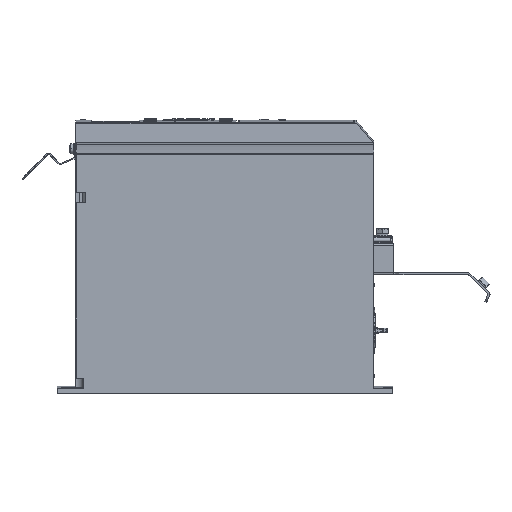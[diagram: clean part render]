
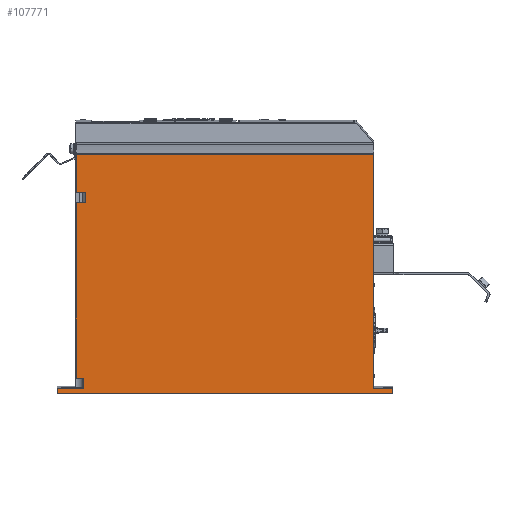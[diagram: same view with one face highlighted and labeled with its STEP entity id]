
A CAD part, left-side view. The second image highlights one B-rep face of the part: STEP entity #107771.
In plain terms, the highlighted planar face has unit normal (-1, 0, 0).
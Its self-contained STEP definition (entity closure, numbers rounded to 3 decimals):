
#5137=DIRECTION('',(0.,1.,0.));
#5138=VECTOR('',#5137,21.);
#5139=CARTESIAN_POINT('',(-84.8,113.,4.));
#5140=LINE('',#5139,#5138);
#5151=DIRECTION('',(0.,1.,0.));
#5152=VECTOR('',#5151,15.25);
#5153=CARTESIAN_POINT('',(-84.8,-134.,4.));
#5154=LINE('',#5153,#5152);
#29941=DIRECTION('',(0.,0.,1.));
#29942=VECTOR('',#29941,140.);
#29943=CARTESIAN_POINT('',(-84.8,118.75,12.));
#29944=LINE('',#29943,#29942);
#29948=DIRECTION('',(0.,1.,0.));
#29949=VECTOR('',#29948,7.75);
#29950=CARTESIAN_POINT('',(-84.8,111.,152.));
#29951=LINE('',#29950,#29949);
#29955=DIRECTION('',(0.,0.,-1.));
#29956=VECTOR('',#29955,8.);
#29957=CARTESIAN_POINT('',(-84.8,111.,160.));
#29958=LINE('',#29957,#29956);
#29962=DIRECTION('',(0.,1.,0.));
#29963=VECTOR('',#29962,7.75);
#29964=CARTESIAN_POINT('',(-84.8,111.,160.));
#29965=LINE('',#29964,#29963);
#29969=DIRECTION('',(0.,0.,1.));
#29970=VECTOR('',#29969,30.948);
#29971=CARTESIAN_POINT('',(-84.8,118.75,160.));
#29972=LINE('',#29971,#29970);
#29976=DIRECTION('',(0.,-1.,0.));
#29977=VECTOR('',#29976,237.5);
#29978=CARTESIAN_POINT('',(-84.8,118.75,190.948));
#29979=LINE('',#29978,#29977);
#29983=DIRECTION('',(0.,0.,-1.));
#29984=VECTOR('',#29983,186.948);
#29985=CARTESIAN_POINT('',(-84.8,-118.75,190.948));
#29986=LINE('',#29985,#29984);
#29990=DIRECTION('',(0.,1.,0.));
#29991=VECTOR('',#29990,268.);
#29992=CARTESIAN_POINT('',(-84.8,-134.,0.));
#29993=LINE('',#29992,#29991);
#29997=DIRECTION('',(0.,0.,1.));
#29998=VECTOR('',#29997,8.);
#29999=CARTESIAN_POINT('',(-84.8,113.,4.));
#30000=LINE('',#29999,#29998);
#30004=DIRECTION('',(0.,1.,0.));
#30005=VECTOR('',#30004,5.75);
#30006=CARTESIAN_POINT('',(-84.8,113.,12.));
#30007=LINE('',#30006,#30005);
#30214=DIRECTION('',(0.,0.,1.));
#30215=VECTOR('',#30214,4.);
#30216=CARTESIAN_POINT('',(-84.8,-134.,0.));
#30217=LINE('',#30216,#30215);
#30284=DIRECTION('',(0.,0.,1.));
#30285=VECTOR('',#30284,4.);
#30286=CARTESIAN_POINT('',(-84.8,134.,0.));
#30287=LINE('',#30286,#30285);
#63251=CARTESIAN_POINT('',(-84.8,-134.,0.));
#63252=CARTESIAN_POINT('',(-84.8,-134.,4.));
#63253=VERTEX_POINT('',#63251);
#63254=VERTEX_POINT('',#63252);
#63260=CARTESIAN_POINT('',(-84.8,134.,0.));
#63262=VERTEX_POINT('',#63260);
#63263=CARTESIAN_POINT('',(-84.8,134.,4.));
#63264=VERTEX_POINT('',#63263);
#63339=CARTESIAN_POINT('',(-84.8,113.,4.));
#63340=CARTESIAN_POINT('',(-84.8,113.,12.));
#63341=VERTEX_POINT('',#63339);
#63342=VERTEX_POINT('',#63340);
#68783=CARTESIAN_POINT('',(-84.8,-118.75,190.948));
#68784=CARTESIAN_POINT('',(-84.8,-118.75,4.));
#68785=VERTEX_POINT('',#68783);
#68786=VERTEX_POINT('',#68784);
#68791=CARTESIAN_POINT('',(-84.8,118.75,12.));
#68793=VERTEX_POINT('',#68791);
#68799=CARTESIAN_POINT('',(-84.8,118.75,190.948));
#68800=VERTEX_POINT('',#68799);
#70240=CARTESIAN_POINT('',(-84.8,118.75,160.));
#70242=VERTEX_POINT('',#70240);
#70244=CARTESIAN_POINT('',(-84.8,118.75,152.));
#70246=VERTEX_POINT('',#70244);
#70251=CARTESIAN_POINT('',(-84.8,111.,160.));
#70252=VERTEX_POINT('',#70251);
#70253=CARTESIAN_POINT('',(-84.8,111.,152.));
#70254=VERTEX_POINT('',#70253);
#107744=CARTESIAN_POINT('',(-84.8,-119.,0.));
#107745=DIRECTION('',(-1.,0.,0.));
#107746=DIRECTION('',(0.,0.,1.));
#107747=AXIS2_PLACEMENT_3D('',#107744,#107745,#107746);
#107748=PLANE('',#107747);
#107749=ORIENTED_EDGE('',*,*,#107261,.T.);
#107751=ORIENTED_EDGE('',*,*,#107750,.F.);
#107753=ORIENTED_EDGE('',*,*,#107752,.F.);
#107754=ORIENTED_EDGE('',*,*,#107168,.T.);
#107755=ORIENTED_EDGE('',*,*,#107237,.T.);
#107756=ORIENTED_EDGE('',*,*,#107315,.T.);
#107757=ORIENTED_EDGE('',*,*,#107724,.T.);
#107758=ORIENTED_EDGE('',*,*,#73064,.F.);
#107760=ORIENTED_EDGE('',*,*,#107759,.F.);
#107761=ORIENTED_EDGE('',*,*,#73159,.T.);
#107763=ORIENTED_EDGE('',*,*,#107762,.T.);
#107764=ORIENTED_EDGE('',*,*,#73026,.F.);
#107766=ORIENTED_EDGE('',*,*,#107765,.T.);
#107768=ORIENTED_EDGE('',*,*,#107767,.T.);
#107769=EDGE_LOOP('',(#107749,#107751,#107753,#107754,#107755,#107756,#107757,
#107758,#107760,#107761,#107763,#107764,#107766,#107768));
#107770=FACE_OUTER_BOUND('',#107769,.F.);
#107771=ADVANCED_FACE('',(#107770),#107748,.T.);
#73026=EDGE_CURVE('',#63341,#63264,#5140,.T.);
#73064=EDGE_CURVE('',#63254,#68786,#5154,.T.);
#73159=EDGE_CURVE('',#63253,#63262,#29993,.T.);
#107168=EDGE_CURVE('',#70252,#70242,#29965,.T.);
#107237=EDGE_CURVE('',#70242,#68800,#29972,.T.);
#107261=EDGE_CURVE('',#68793,#70246,#29944,.T.);
#107315=EDGE_CURVE('',#68800,#68785,#29979,.T.);
#107724=EDGE_CURVE('',#68785,#68786,#29986,.T.);
#107750=EDGE_CURVE('',#70254,#70246,#29951,.T.);
#107752=EDGE_CURVE('',#70252,#70254,#29958,.T.);
#107759=EDGE_CURVE('',#63253,#63254,#30217,.T.);
#107762=EDGE_CURVE('',#63262,#63264,#30287,.T.);
#107765=EDGE_CURVE('',#63341,#63342,#30000,.T.);
#107767=EDGE_CURVE('',#63342,#68793,#30007,.T.);
